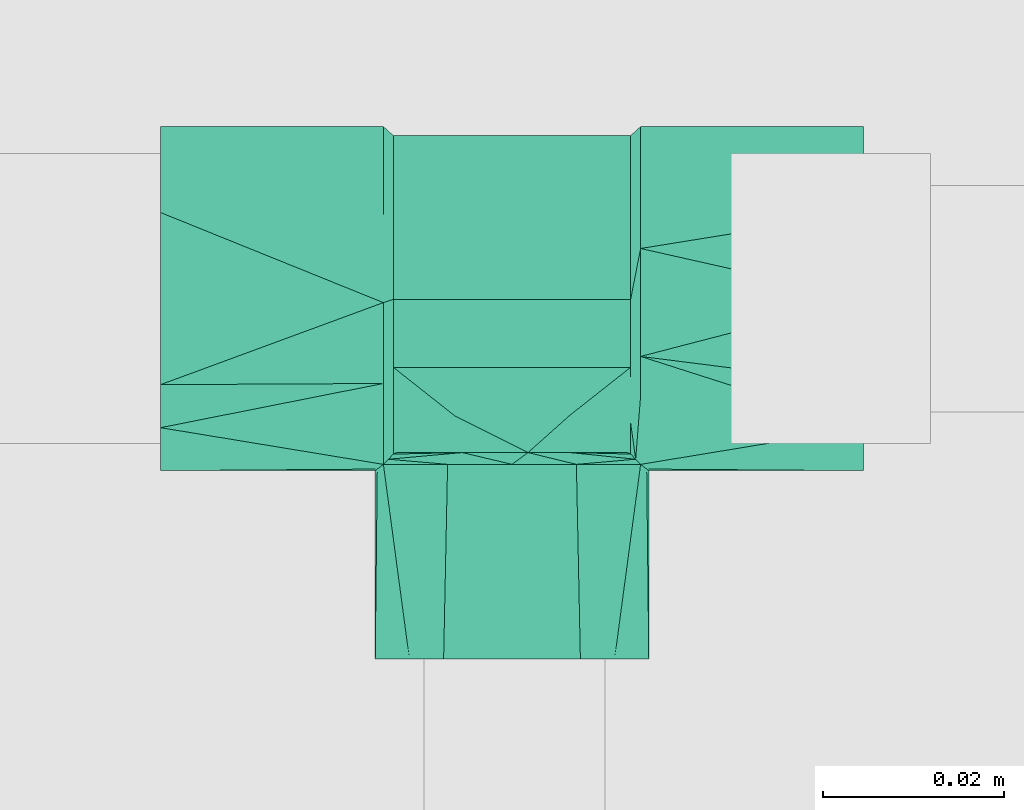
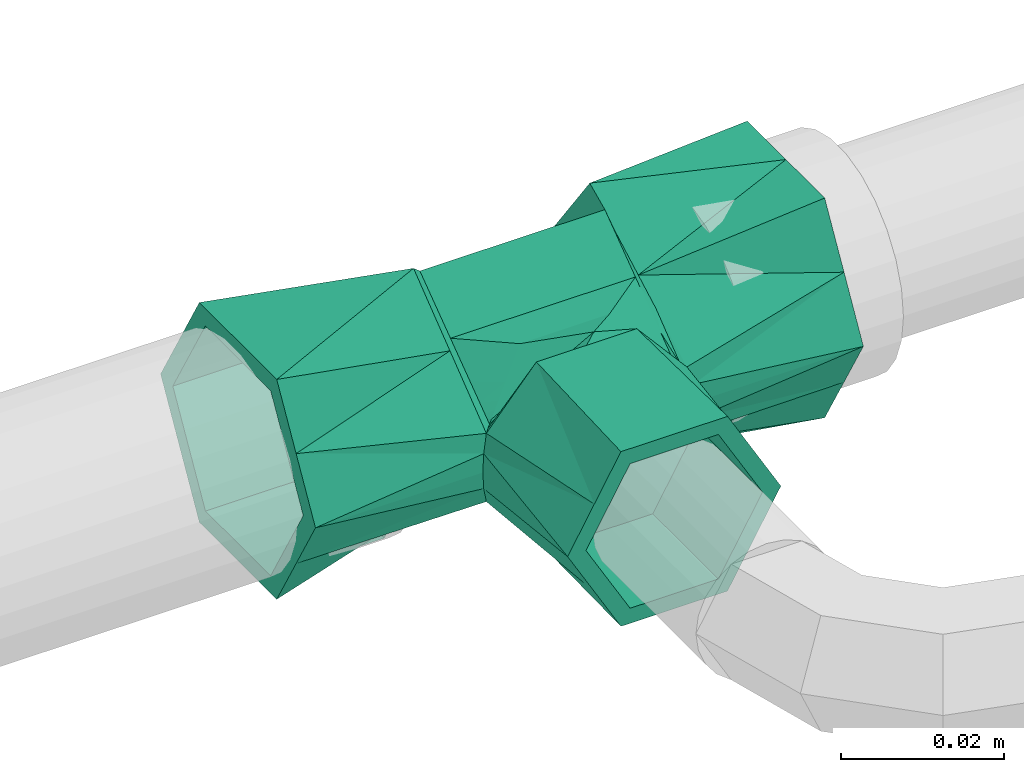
# One storey, part 124 of 166: 1 flow fitting.
"""IFC2X3 building model written with IfcOpenShell, lengths in metres."""

from ifc_helpers import new_model, entity, si_unit, converted_unit, direction, frame, origin, place, context, subcontext, project, spatial, faceted_brep, source, transform, mapped, material, type_object, type_shapes, element, save


model = new_model("IFC2X3")

# Units and contexts
model_context = context("Model", 3, precision=1e-05, world=origin(), true_north=direction((6.123233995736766e-17, 1.0)))
body_context = subcontext(model_context, "Body", "Model", "MODEL_VIEW")
ifc_project = project(units=[si_unit("LENGTHUNIT", "METRE"), converted_unit("PLANEANGLEUNIT", "DEGREE", entity("IfcPlaneAngleMeasure", 0.017453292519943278), si_unit("PLANEANGLEUNIT", "RADIAN"), dimensions=[0, 0, 0, 0, 0, 0, 0]), si_unit("AREAUNIT", "SQUARE_METRE")], contexts=[model_context])

# Site, building, storey
site_placement = place(None, origin())
site = spatial("IfcSite", under=ifc_project, at=site_placement, Name="Default", CompositionType="ELEMENT")
building_placement = place(site_placement, origin())
building = spatial("IfcBuilding", under=site, at=building_placement, Name="CASA DE ACOLHIDA PARA IDOSOS", CompositionType="ELEMENT")
storey_placement = place(building_placement, frame((0.0, 0.0, -1.7499999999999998)))
storey = spatial("IfcBuildingStorey", under=building, at=storey_placement, Name="IMPLANTAÇÃO DRENAGEM", CompositionType="ELEMENT", Elevation=-1.7499999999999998)

# Flow fitting
ifc_material = material(Name="PVC Branco")
pipe_fitting_type = type_object("IfcPipeFittingType", Name="AF_Roscavel_Te_Reducao:Standard", PredefinedType="NOTDEFINED", material=ifc_material)
shared_shape = source(origin(), body_context, "Body", "Brep", [
    faceted_brep([(-0.014199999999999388, 0.01563344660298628, -0.004544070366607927), (-0.014199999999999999, 0.018999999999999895, 0.0), (-0.0131, 0.01799999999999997, 0.0), (-0.014199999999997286, -0.01071379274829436, -0.009268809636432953), (-0.013099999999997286, -0.00862473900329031, -0.011707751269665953), (-0.01309999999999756, -0.012376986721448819, -0.008943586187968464), (-0.013099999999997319, -0.013728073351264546, -0.00794828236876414), (-0.01419999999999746, -0.0004246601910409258, -0.01490965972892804), (-0.01309999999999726, -0.004354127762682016, -0.014853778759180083), (-0.01419999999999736, -0.006383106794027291, -0.011643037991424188), (-0.013099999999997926, 0.004437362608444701, -0.013499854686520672), (-0.014199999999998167, 0.008900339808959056, -0.013632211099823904), (-0.013099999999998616, 0.008958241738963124, -0.008999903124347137), (-0.013099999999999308, 0.013479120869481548, -0.004499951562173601), (-0.01419999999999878, 0.01226689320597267, -0.009088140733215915), (-0.013653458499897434, -0.01773405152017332, -0.005279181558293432), (-0.013099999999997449, -0.014771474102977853, -0.007179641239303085), (-0.013099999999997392, -0.015968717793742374, -0.006297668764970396), (-0.013099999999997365, -0.016567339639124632, -0.005856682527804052), (-0.013099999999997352, -0.016866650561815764, -0.005636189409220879), (-0.013099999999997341, -0.017016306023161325, -0.005525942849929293), (-0.01309999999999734, -0.017165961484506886, -0.005415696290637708), (-0.014199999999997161, -0.018300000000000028, -0.005109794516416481), (-0.014199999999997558, 0.005533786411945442, -0.018176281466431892), (-0.013099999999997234, -8.35165220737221e-05, -0.017999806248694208), (-0.013099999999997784, -0.007588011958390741, -0.012471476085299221), (-0.013100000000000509, -0.0001668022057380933, 0.014208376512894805), (-0.014200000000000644, -0.004906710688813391, 0.015523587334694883), (-0.01310000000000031, -0.005833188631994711, 0.011277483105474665), (-0.014200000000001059, 0.014139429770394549, 0.0047487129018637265), (-0.013100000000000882, 0.011749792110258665, 0.00856963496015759), (-0.013100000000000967, 0.014874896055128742, 0.004284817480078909), (-0.01420000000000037, -0.009371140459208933, 0.012052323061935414), (-0.014200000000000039, -0.014747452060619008, 0.007872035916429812), (-0.013100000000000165, -0.009867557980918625, 0.009190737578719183), (-0.014200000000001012, 0.009278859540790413, 0.00949742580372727), (-0.014200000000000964, 0.004418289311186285, 0.014246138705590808), (-0.01310000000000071, 0.0054995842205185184, 0.01713926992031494), (-0.013100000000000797, 0.008624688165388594, 0.012854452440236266), (-0.013653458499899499, -0.017734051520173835, 0.005279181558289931), (-0.014200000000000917, -0.0004422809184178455, 0.018994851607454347), (-0.014199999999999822, -0.01830000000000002, 0.005109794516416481), (-0.013099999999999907, -0.01716596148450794, 0.0054156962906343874), (-0.013099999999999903, -0.01700710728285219, 0.005497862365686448), (-0.013099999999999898, -0.016848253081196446, 0.0055800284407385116), (-0.013099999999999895, -0.016530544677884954, 0.0057443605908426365), (-0.01309999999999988, -0.015895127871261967, 0.006073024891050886), (-0.01309999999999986, -0.014624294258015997, 0.006730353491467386), (-0.013099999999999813, -0.012082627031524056, 0.008045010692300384), (-0.013099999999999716, 0.010989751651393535, 0.009611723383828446), (-0.013099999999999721, -0.006999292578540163, 0.010674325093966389), (0.00953576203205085, -0.014962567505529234, 0.009221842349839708), (0.01113423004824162, -0.01598128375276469, 0.007568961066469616), (0.013100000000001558, -0.014624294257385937, 0.006730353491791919), (0.013100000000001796, -0.006999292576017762, 0.010674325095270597), (0.013100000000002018, -0.005833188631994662, 0.011277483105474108), (0.013100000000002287, -0.00016680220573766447, 0.01420837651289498), (0.013100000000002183, 0.005499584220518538, 0.017139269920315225), (0.0127326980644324, -0.017000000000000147, 0.005916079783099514), (0.012919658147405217, -0.017084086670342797, 0.005668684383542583), (0.01310000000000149, -0.01684825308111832, 0.0055800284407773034), (0.013100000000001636, -0.012082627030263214, 0.00804501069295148), (0.006338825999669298, -0.01292513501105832, 0.012527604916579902), (0.007625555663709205, -0.013745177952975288, 0.011197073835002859), (0.008912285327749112, -0.014565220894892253, 0.009866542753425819), (-0.011133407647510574, -0.015980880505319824, 0.007569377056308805), (-0.01082226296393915, -0.015782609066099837, 0.007891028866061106), (-0.009534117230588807, -0.014961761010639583, 0.009222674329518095), (-0.008911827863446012, -0.014565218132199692, 0.00986597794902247), (-0.006335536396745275, -0.0129235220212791, 0.012529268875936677), (-0.012977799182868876, -0.017110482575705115, 0.005587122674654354), (-0.012919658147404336, -0.017084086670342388, 0.005668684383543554), (0.013100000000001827, -0.00986755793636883, 0.00919073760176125), (-0.01273269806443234, -0.017000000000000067, 0.005916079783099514), (-0.011933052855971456, -0.016490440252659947, 0.00674272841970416), (0.0131000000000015, -0.01653054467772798, 0.005744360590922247), (0.011933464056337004, -0.016490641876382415, 0.006742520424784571), (0.013100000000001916, 0.008624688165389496, 0.012854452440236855), (0.013100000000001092, 0.011749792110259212, 0.00856963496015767), (0.013100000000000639, 0.014874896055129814, 0.0042848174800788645), (0.0131, 0.017999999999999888, 0.0), (0.012977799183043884, -0.01711048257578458, 0.005587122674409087), (0.01310000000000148, -0.017165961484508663, 0.005415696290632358), (0.013100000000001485, -0.017007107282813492, 0.005497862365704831), (0.01310000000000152, -0.0158951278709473, 0.006073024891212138), (0.01309999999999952, 0.012176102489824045, -0.005796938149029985), (0.013099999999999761, 0.008958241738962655, -0.008999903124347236), (0.013099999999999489, 0.006352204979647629, -0.011593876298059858), (0.013099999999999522, -8.351652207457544e-05, -0.01799980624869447), (-0.01291965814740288, -0.017084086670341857, -0.005668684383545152), (-0.012977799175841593, -0.017110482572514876, -0.005587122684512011), (0.013099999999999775, -0.007588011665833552, -0.012471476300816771), (0.0063388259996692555, -0.012925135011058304, -0.012527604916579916), (-0.006335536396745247, -0.01292352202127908, -0.012529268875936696), (0.013099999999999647, -0.005186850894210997, -0.014240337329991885), (-0.01273269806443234, -0.017000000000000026, -0.005916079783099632), (-0.011933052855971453, -0.01649044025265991, -0.006742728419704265), (0.009535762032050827, -0.014962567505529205, -0.009221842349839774), (0.013099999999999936, -0.012376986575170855, -0.008943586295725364), (0.013100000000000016, -0.014771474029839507, -0.007179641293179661), (0.013100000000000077, -0.016567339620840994, -0.005856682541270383), (0.0127326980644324, -0.017000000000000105, -0.005916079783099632), (0.011933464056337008, -0.01649064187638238, -0.006742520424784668), (0.008912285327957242, -0.01456522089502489, -0.009866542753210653), (0.013099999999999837, -0.010290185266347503, -0.010480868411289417), (0.012977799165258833, -0.017110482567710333, -0.005587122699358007), (0.012919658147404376, -0.017084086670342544, -0.005668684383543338), (0.013100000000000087, -0.016866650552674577, -0.005636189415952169), (0.01310000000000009, -0.017016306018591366, -0.005525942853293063), (0.013100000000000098, -0.01716596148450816, -0.0054156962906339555), (0.011134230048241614, -0.015981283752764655, -0.007568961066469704), (0.010822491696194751, -0.01578261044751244, -0.00789131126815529), (-0.007623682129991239, -0.01374437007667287, -0.011197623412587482), (-0.008911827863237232, -0.01456521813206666, -0.00986597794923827), (-0.009534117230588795, -0.014961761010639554, -0.009222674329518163), (-0.011133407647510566, -0.01598088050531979, -0.007569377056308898), (0.013100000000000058, -0.01596871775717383, -0.006297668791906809), (0.014200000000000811, 0.01226689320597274, 0.009088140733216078), (0.014200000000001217, 0.008900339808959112, 0.013632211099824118), (0.014200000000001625, 0.005533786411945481, 0.018176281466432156), (0.014200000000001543, -0.00312758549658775, 0.013427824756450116), (0.014200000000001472, -0.010713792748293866, 0.009268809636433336), (0.013653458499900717, -0.017734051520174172, 0.005279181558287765), (0.014200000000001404, -0.01829999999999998, 0.005109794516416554), (0.014199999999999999, 0.019, 0.0), (0.014200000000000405, 0.01563344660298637, 0.004544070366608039), (0.014200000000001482, -0.0063831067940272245, 0.011643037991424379), (0.014199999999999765, -0.00044228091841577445, -0.018994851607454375), (0.014199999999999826, -0.004906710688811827, -0.015523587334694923), (0.01419999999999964, 0.009278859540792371, -0.009497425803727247), (0.014199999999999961, -0.0147474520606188, -0.007872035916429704), (0.01420000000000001, -0.018299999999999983, -0.005109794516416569), (0.013653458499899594, -0.017734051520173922, -0.00527918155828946), (0.014199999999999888, -0.009371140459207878, -0.01205232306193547), (0.014199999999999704, 0.0044182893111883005, -0.01424613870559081), (0.014199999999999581, 0.014139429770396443, -0.004748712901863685), (-0.0388000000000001, -0.009500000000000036, -0.016454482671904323), (-0.0388000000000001, -0.016, 0.0), (-0.03879999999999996, -0.011857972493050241, -0.007174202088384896), (-0.0388000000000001, -0.014250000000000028, -0.008227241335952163), (-0.0388000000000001, -0.008000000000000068, -0.01385640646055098), (-0.0388000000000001, 0.0, -0.013856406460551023), (-0.0388000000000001, 0.007999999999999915, -0.013856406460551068), (-0.0388000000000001, 0.0, -0.01645448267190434), (-0.0388000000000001, -0.01900000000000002, 0.0), (-0.0388000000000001, -0.012000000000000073, 0.006928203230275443), (-0.0388000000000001, -0.008000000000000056, 0.013856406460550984), (-0.0388000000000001, -0.014249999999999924, 0.008227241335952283), (-0.0388000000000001, -0.00949999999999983, 0.01645448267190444), (-0.0388000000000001, 0.0, 0.013856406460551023), (-0.0388000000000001, 0.007999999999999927, 0.01385640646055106), (-0.0388000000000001, 0.0, 0.01645448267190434), (-0.0388000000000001, 0.009500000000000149, 0.016454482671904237), (-0.0388000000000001, 0.01549204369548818, 0.006075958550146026), (-0.0388000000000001, 0.01899999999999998, 0.0), (-0.03879999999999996, 0.01185797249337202, 0.007174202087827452), (-0.0388000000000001, 0.016, 0.0), (-0.0388000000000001, 0.014249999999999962, -0.0082272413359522), (-0.0388000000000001, 0.009499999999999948, -0.016454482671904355), (-0.0388000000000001, 0.011999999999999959, -0.006928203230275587), (-0.014872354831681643, -0.018819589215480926, 0.0026120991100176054), (-0.015099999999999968, -0.01900000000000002, 0.0), (0.0388000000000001, -0.019, 0.0), (0.014872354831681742, -0.018819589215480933, 0.0026120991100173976), (0.015100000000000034, -0.019, 0.0), (0.0388000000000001, 0.014249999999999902, 0.008227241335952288), (0.0388000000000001, 0.019, 0.0), (-0.014872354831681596, -0.018819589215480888, -0.0026120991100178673), (0.014872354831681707, -0.018819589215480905, -0.0026120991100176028), (0.0388000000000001, 0.015492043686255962, -0.006075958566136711), (0.0388000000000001, 0.009500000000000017, -0.016454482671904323), (0.0388000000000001, 0.015999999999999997, 0.0), (0.038800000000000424, 0.011857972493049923, -0.007174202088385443), (0.0388000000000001, 0.008000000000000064, -0.01385640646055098), (0.0388000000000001, 0.0, -0.013856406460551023), (0.0388000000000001, -0.007999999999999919, -0.013856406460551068), (0.0388000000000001, 0.0, -0.01645448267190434), (0.0388000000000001, 0.012000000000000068, 0.006928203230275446), (0.0388000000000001, 0.00800000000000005, 0.013856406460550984), (0.0388000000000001, 0.00949999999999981, 0.01645448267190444), (0.0388000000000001, 0.0, 0.013856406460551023), (0.0388000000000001, -0.00799999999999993, 0.01385640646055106), (0.0388000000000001, 0.0, 0.01645448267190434), (0.0388000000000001, -0.00950000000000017, 0.016454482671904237), (0.0388000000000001, -0.014250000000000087, 0.008227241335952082), (0.038800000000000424, -0.01185797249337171, 0.007174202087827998), (0.0388000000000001, -0.016000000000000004, 0.0), (0.0388000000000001, -0.014249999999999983, -0.008227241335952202), (0.0388000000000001, -0.009499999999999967, -0.016454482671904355), (0.0388000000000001, -0.011999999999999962, -0.006928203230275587), (-0.02269999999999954, -0.016, 0.0), (-0.02269999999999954, -0.01185797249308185, 0.0071742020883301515), (-0.02269999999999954, -0.008000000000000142, 0.013856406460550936), (-0.02269999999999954, 0.0, 0.013856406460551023), (-0.02269999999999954, 0.007999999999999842, 0.01385640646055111), (-0.02269999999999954, 0.01199999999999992, 0.006928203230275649), (-0.02269999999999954, 0.016, 0.0), (-0.02269999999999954, 0.011857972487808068, -0.007174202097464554), (-0.02269999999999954, 0.008000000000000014, -0.01385640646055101), (-0.022699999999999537, 0.0, -0.01385640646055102), (-0.02269999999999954, -0.007999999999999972, -0.013856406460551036), (-0.02269999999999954, -0.011999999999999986, -0.006928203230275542), (0.022700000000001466, -0.016000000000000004, 0.0), (0.022700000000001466, -0.011999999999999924, 0.006928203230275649), (0.022700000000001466, -0.007999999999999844, 0.01385640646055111), (0.022700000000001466, 0.0, 0.013856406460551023), (0.022700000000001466, 0.00800000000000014, 0.013856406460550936), (0.022700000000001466, 0.011857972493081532, 0.007174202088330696), (0.022700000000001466, 0.015999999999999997, 0.0), (0.022700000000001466, 0.011999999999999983, -0.006928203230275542), (0.022700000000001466, 0.00799999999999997, -0.013856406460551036), (0.022700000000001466, 0.0, -0.013856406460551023), (0.022700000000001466, -0.008000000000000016, -0.01385640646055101), (0.022700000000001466, -0.011857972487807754, -0.007174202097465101), (0.01250000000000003, -0.02369999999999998, 0.0), (0.006250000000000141, -0.023699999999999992, 0.010825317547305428), (-0.006249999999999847, -0.02370000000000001, 0.010825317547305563), (-0.012499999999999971, -0.023700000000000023, 0.0), (-0.006249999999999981, -0.02370000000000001, -0.010825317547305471), (0.006250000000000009, -0.023699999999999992, -0.01082531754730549), (0.012500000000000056, -0.03979999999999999, 0.0), (0.006250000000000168, -0.039799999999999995, 0.010825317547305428), (-0.00624999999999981, -0.039800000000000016, 0.01082531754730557), (-0.012499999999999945, -0.03980000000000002, 0.0), (-0.006249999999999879, -0.039800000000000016, -0.010825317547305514), (0.006250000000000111, -0.039799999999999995, -0.010825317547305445), (-0.0017679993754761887, -0.01700000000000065, -0.013928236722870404), (-0.006407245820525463, -0.017000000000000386, -0.010538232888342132), (0.009386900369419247, -0.01700000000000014, -0.007764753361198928), (0.006041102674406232, -0.017000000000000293, -0.009613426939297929), (0.005482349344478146, -0.017000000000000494, -0.009922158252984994), (0.0017662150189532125, -0.016999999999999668, 0.013928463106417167), (0.006407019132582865, -0.016999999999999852, 0.010537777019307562), (-0.009386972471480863, -0.01699999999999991, 0.007764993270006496), (-0.00604124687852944, -0.016999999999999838, 0.009613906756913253), (-0.005483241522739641, -0.01699999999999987, 0.009922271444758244), (1.2383427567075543e-06, -0.018300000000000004, 0.013321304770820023), (0.007111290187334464, -0.018299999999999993, 0.013320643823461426), (-0.007108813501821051, -0.018300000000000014, 0.013321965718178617), (1.2383427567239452e-06, -0.01830000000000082, -0.013321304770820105), (-0.007108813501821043, -0.018300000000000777, -0.013321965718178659), (0.007111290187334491, -0.018300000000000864, -0.01332064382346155), (0.007550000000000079, -0.039799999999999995, -0.013076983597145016), (0.011325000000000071, -0.03979999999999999, -0.00653849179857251), (0.0, -0.0398, -0.013076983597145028), (0.015100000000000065, -0.03979999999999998, 0.0), (0.011324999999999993, -0.03979999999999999, 0.006538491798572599), (0.007549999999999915, -0.039799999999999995, 0.01307698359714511), (0.0, -0.0398, 0.013076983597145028), (-0.007550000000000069, -0.039800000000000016, 0.013076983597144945), (-0.011325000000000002, -0.03980000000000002, 0.006538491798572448), (-0.015099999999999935, -0.03980000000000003, 0.0), (-0.011324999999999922, -0.03980000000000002, -0.006538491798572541), (-0.007549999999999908, -0.039800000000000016, -0.01307698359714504)], [[[0, 1, 2]], [[3, 4, 5, 6]], [[7, 8, 9]], [[10, 11, 12]], [[13, 14, 0]], [[15, 6, 16, 17, 18, 19, 20, 21]], [[4, 3, 9]], [[3, 6, 15]], [[0, 2, 13]], [[15, 22, 3]], [[23, 10, 24]], [[12, 14, 13]], [[8, 7, 24]], [[9, 8, 25, 4]], [[11, 10, 23]], [[11, 14, 12]], [[7, 23, 24]], [[26, 27, 28]], [[29, 30, 31]], [[31, 1, 29]], [[31, 2, 1]], [[27, 32, 28]], [[33, 34, 32]], [[29, 35, 30]], [[36, 37, 38]], [[34, 33, 39]], [[40, 37, 36]], [[33, 41, 39]], [[39, 42, 43, 44, 45, 46, 47, 48, 34]], [[35, 38, 49, 30]], [[26, 40, 27]], [[26, 37, 40]], [[36, 38, 35]], [[32, 34, 50, 28]], [[51, 52, 53]], [[50, 54, 55, 56, 57, 37, 26, 28]], [[58, 59, 60]], [[61, 62, 63, 64, 51]], [[47, 65, 66, 67]], [[48, 67, 68, 69]], [[69, 50, 34, 48]], [[70, 71, 44, 43, 42]], [[62, 61, 72, 54]], [[45, 73, 74]], [[50, 69, 54]], [[58, 75, 76]], [[73, 44, 71]], [[2, 31, 30, 49, 38, 37, 57, 77, 78, 79, 80]], [[45, 44, 73]], [[62, 54, 69]], [[60, 75, 58]], [[67, 48, 47]], [[59, 81, 82, 83, 60]], [[84, 76, 75]], [[65, 47, 46]], [[61, 51, 53]], [[46, 74, 65]], [[53, 52, 84]], [[45, 74, 46]], [[84, 52, 76]], [[12, 13, 2, 80, 85, 86, 87, 88, 24, 10]], [[89, 90, 21, 20, 19]], [[91, 92, 93]], [[93, 25, 91]], [[24, 88, 94, 91, 25, 8]], [[95, 18, 96]], [[17, 96, 18]], [[97, 98, 99]], [[100, 101, 102]], [[98, 97, 103, 92]], [[92, 91, 104, 98]], [[105, 106, 107, 108, 109]], [[99, 110, 111, 97]], [[5, 93, 112, 113, 114]], [[114, 115, 16]], [[95, 89, 19]], [[19, 18, 95]], [[93, 5, 4, 25]], [[101, 107, 106]], [[100, 107, 101]], [[110, 99, 116]], [[114, 16, 6, 5]], [[116, 102, 110]], [[16, 115, 17]], [[100, 102, 116]], [[17, 115, 96]], [[117, 77, 118]], [[56, 119, 57]], [[57, 118, 77]], [[119, 118, 57]], [[119, 56, 120]], [[121, 55, 54, 72]], [[122, 72, 61, 53, 84, 75, 60, 83, 82]], [[121, 122, 123]], [[124, 80, 79]], [[122, 121, 72]], [[125, 79, 78]], [[78, 117, 125]], [[56, 55, 120]], [[55, 121, 126, 120]], [[124, 79, 125]], [[77, 117, 78]], [[127, 128, 88]], [[129, 87, 86, 85]], [[130, 131, 132]], [[130, 104, 133]], [[88, 134, 127]], [[80, 135, 85]], [[132, 109, 108, 107, 100, 116, 99, 98, 104]], [[133, 104, 91, 94]], [[134, 88, 87]], [[94, 128, 133]], [[87, 129, 134]], [[104, 130, 132]], [[88, 128, 94]], [[135, 80, 124]], [[135, 129, 85]], [[136, 137, 138]], [[137, 136, 139]], [[136, 138, 140]], [[136, 140, 141]], [[136, 141, 142]], [[142, 143, 136]], [[137, 139, 144]], [[144, 145, 137]], [[144, 146, 145]], [[146, 144, 147]], [[146, 147, 148]], [[148, 149, 146]], [[148, 150, 149]], [[150, 148, 151]], [[150, 151, 152]], [[150, 152, 153]], [[150, 153, 154]], [[154, 155, 150]], [[154, 156, 155]], [[156, 154, 157]], [[156, 157, 158]], [[158, 142, 159]], [[142, 158, 143]], [[158, 159, 156]], [[35, 153, 152]], [[40, 152, 151, 148]], [[153, 35, 29, 1]], [[147, 32, 148]], [[152, 40, 36, 35]], [[160, 144, 161]], [[162, 163, 164]], [[1, 154, 153]], [[165, 166, 124]], [[160, 41, 147]], [[144, 160, 147]], [[148, 32, 27, 40]], [[147, 41, 33, 32]], [[139, 9, 3, 22]], [[136, 9, 139]], [[167, 139, 22]], [[144, 167, 161]], [[168, 162, 164]], [[167, 144, 139]], [[143, 158, 23]], [[143, 9, 136]], [[157, 154, 1]], [[124, 166, 169]], [[157, 1, 0, 14]], [[158, 14, 11, 23]], [[143, 23, 7, 9]], [[14, 158, 157]], [[170, 171, 172]], [[171, 170, 169]], [[170, 172, 173]], [[170, 173, 174]], [[170, 174, 175]], [[175, 176, 170]], [[171, 169, 166]], [[166, 177, 171]], [[166, 178, 177]], [[178, 166, 165]], [[178, 165, 179]], [[179, 180, 178]], [[179, 181, 180]], [[181, 179, 182]], [[181, 182, 183]], [[181, 183, 184]], [[181, 184, 162]], [[162, 185, 181]], [[162, 186, 185]], [[186, 162, 187]], [[186, 187, 188]], [[188, 175, 189]], [[175, 188, 176]], [[188, 189, 186]], [[184, 126, 121, 123]], [[183, 126, 184]], [[163, 184, 123]], [[163, 162, 184]], [[182, 179, 119]], [[182, 126, 183]], [[165, 124, 125, 117]], [[179, 117, 118, 119]], [[182, 119, 120, 126]], [[117, 179, 165]], [[129, 169, 170]], [[127, 170, 176, 188]], [[169, 129, 135, 124]], [[187, 133, 188]], [[170, 127, 134, 129]], [[168, 131, 187]], [[162, 168, 187]], [[188, 133, 128, 127]], [[187, 131, 130, 133]], [[190, 191, 192, 193, 194, 195, 196, 197, 198, 199, 200, 201]], [[192, 191, 190, 137, 145, 146]], [[186, 202, 203, 204, 181, 185]], [[194, 193, 192, 146, 149, 150]], [[204, 205, 206, 178, 180, 181]], [[156, 196, 195, 194, 150, 155]], [[206, 207, 208, 171, 177, 178]], [[198, 197, 196, 156, 159, 142]], [[171, 208, 209, 210, 173, 172]], [[200, 199, 198, 142, 141, 140]], [[210, 211, 212, 175, 174, 173]], [[137, 190, 201, 200, 140, 138]], [[212, 213, 202, 186, 189, 175]], [[208, 207, 206, 205, 204, 203, 202, 213, 212, 211, 210, 209]], [[214, 215, 216, 217, 218, 219]], [[220, 221, 215, 214]], [[221, 222, 216, 215]], [[222, 223, 217, 216]], [[223, 224, 218, 217]], [[224, 225, 219, 218]], [[225, 220, 214, 219]], [[226, 227, 95, 96, 115, 114, 113, 112, 93]], [[92, 103, 97, 111, 110, 102, 101, 228, 229, 230, 226]], [[92, 226, 93]], [[231, 232, 58, 76, 52, 51, 64, 63, 62]], [[69, 68, 67, 66, 65, 74, 73, 233, 234, 235, 231]], [[69, 231, 62]], [[42, 39, 235]], [[235, 236, 231]], [[232, 82, 81, 59]], [[123, 122, 237]], [[236, 237, 231]], [[82, 232, 122]], [[237, 122, 232]], [[71, 235, 234, 233, 73]], [[235, 71, 70, 42]], [[39, 238, 235]], [[236, 235, 238]], [[39, 41, 238]], [[59, 58, 232]], [[237, 232, 231]], [[109, 132, 230]], [[230, 239, 226]], [[227, 21, 90, 89]], [[22, 15, 240]], [[239, 240, 226]], [[21, 227, 15]], [[240, 15, 227]], [[106, 230, 229, 228, 101]], [[230, 106, 105, 109]], [[132, 241, 230]], [[239, 230, 241]], [[132, 131, 241]], [[89, 95, 227]], [[240, 227, 226]], [[242, 220, 225]], [[220, 242, 243]], [[242, 225, 224]], [[224, 244, 242]], [[220, 243, 245]], [[221, 220, 245]], [[221, 245, 246]], [[221, 246, 247]], [[221, 247, 222]], [[222, 247, 248]], [[222, 248, 249]], [[222, 249, 250]], [[222, 250, 251]], [[251, 223, 222]], [[223, 251, 252]], [[223, 252, 253]], [[253, 224, 223]], [[224, 253, 244]], [[251, 160, 161]], [[249, 238, 250]], [[245, 164, 163]], [[238, 249, 248]], [[251, 250, 160]], [[250, 238, 41]], [[237, 248, 247]], [[245, 163, 246]], [[123, 246, 163]], [[237, 247, 246]], [[237, 246, 123]], [[160, 250, 41]], [[248, 237, 236, 238]], [[245, 168, 164]], [[242, 241, 243]], [[253, 240, 244]], [[251, 161, 167]], [[245, 243, 168]], [[243, 241, 131]], [[244, 240, 239, 241]], [[251, 167, 252]], [[22, 252, 167]], [[240, 253, 252]], [[240, 252, 22]], [[168, 243, 131]], [[242, 244, 241]]]),
])
type_shapes(pipe_fitting_type, [shared_shape])
flow_fitting_placement = place(storey_placement, frame((20.03905110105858, 36.05494207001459, -0.19999999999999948), z_axis=(0.0, 0.0, -1.0), x_axis=(-1.0, 0.0, 0.0)))
element("IfcFlowFitting", 1, at=flow_fitting_placement, inside=storey, type_object=pipe_fitting_type, material=ifc_material, Name="AF_Roscavel_Te_Reducao:Standard", ObjectType="AF_Roscavel_Te_Reducao:Standard", context=body_context, shape_type="MappedRepresentation", body=[
    mapped(shared_shape, transform((0.0, 0.0, 0.0), scale=1.0)),
])

save(model, "model.ifc")
